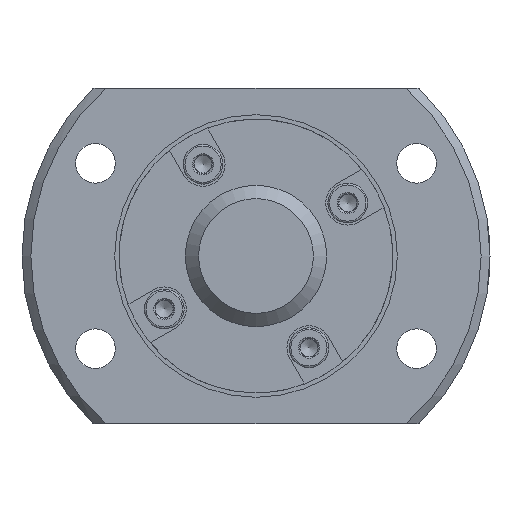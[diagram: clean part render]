
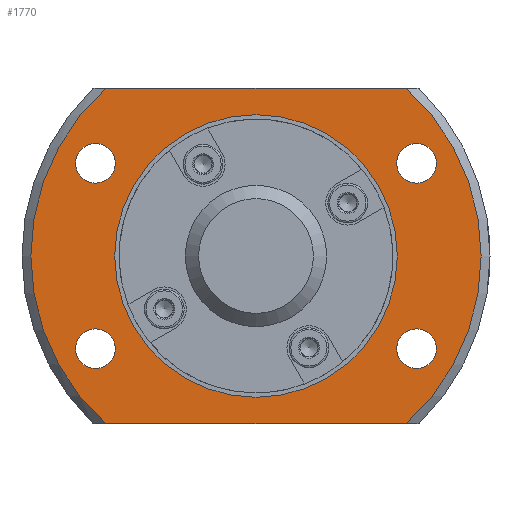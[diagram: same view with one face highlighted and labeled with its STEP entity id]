
A CAD part, left-side view. The second image highlights one B-rep face of the part: STEP entity #1770.
In plain terms, the highlighted planar face has unit normal (-1, 0, 0).
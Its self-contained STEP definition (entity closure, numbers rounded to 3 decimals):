
#81=LINE('',#2996,#193);
#82=LINE('',#2997,#194);
#193=VECTOR('',#2270,1000.);
#194=VECTOR('',#2271,1000.);
#454=ORIENTED_EDGE('',*,*,#908,.T.);
#455=ORIENTED_EDGE('',*,*,#909,.F.);
#456=ORIENTED_EDGE('',*,*,#888,.F.);
#457=ORIENTED_EDGE('',*,*,#910,.F.);
#458=ORIENTED_EDGE('',*,*,#906,.F.);
#459=ORIENTED_EDGE('',*,*,#911,.T.);
#460=ORIENTED_EDGE('',*,*,#912,.T.);
#461=ORIENTED_EDGE('',*,*,#913,.T.);
#462=ORIENTED_EDGE('',*,*,#914,.T.);
#888=EDGE_CURVE('',#1120,#1119,#1247,.T.);
#906=EDGE_CURVE('',#1134,#1135,#1260,.T.);
#908=EDGE_CURVE('',#1136,#1136,#1261,.T.);
#909=EDGE_CURVE('',#1119,#1134,#81,.T.);
#910=EDGE_CURVE('',#1135,#1120,#82,.T.);
#911=EDGE_CURVE('',#1137,#1137,#1262,.T.);
#912=EDGE_CURVE('',#1138,#1138,#1263,.T.);
#913=EDGE_CURVE('',#1139,#1139,#1264,.T.);
#914=EDGE_CURVE('',#1140,#1140,#1265,.T.);
#1119=VERTEX_POINT('',#2930);
#1120=VERTEX_POINT('',#2935);
#1134=VERTEX_POINT('',#2986);
#1135=VERTEX_POINT('',#2988);
#1136=VERTEX_POINT('',#2995);
#1137=VERTEX_POINT('',#2999);
#1138=VERTEX_POINT('',#3001);
#1139=VERTEX_POINT('',#3003);
#1140=VERTEX_POINT('',#3005);
#1247=CIRCLE('',#1935,25.5);
#1260=CIRCLE('',#1958,25.5);
#1261=CIRCLE('',#1960,16.);
#1262=CIRCLE('',#1961,2.25);
#1263=CIRCLE('',#1962,2.25);
#1264=CIRCLE('',#1963,2.25);
#1265=CIRCLE('',#1964,2.25);
#1360=EDGE_LOOP('',(#454));
#1361=EDGE_LOOP('',(#455,#456,#457,#458));
#1362=EDGE_LOOP('',(#459));
#1363=EDGE_LOOP('',(#460));
#1364=EDGE_LOOP('',(#461));
#1365=EDGE_LOOP('',(#462));
#1536=FACE_BOUND('',#1360,.T.);
#1537=FACE_BOUND('',#1361,.T.);
#1538=FACE_BOUND('',#1362,.T.);
#1539=FACE_BOUND('',#1363,.T.);
#1540=FACE_BOUND('',#1364,.T.);
#1541=FACE_BOUND('',#1365,.T.);
#1676=PLANE('',#1959);
#1770=ADVANCED_FACE('',(#1536,#1537,#1538,#1539,#1540,#1541),#1676,.T.);
#1935=AXIS2_PLACEMENT_3D('',#2936,#2216,#2217);
#1958=AXIS2_PLACEMENT_3D('',#2987,#2264,#2265);
#1959=AXIS2_PLACEMENT_3D('',#2993,#2266,#2267);
#1960=AXIS2_PLACEMENT_3D('',#2994,#2268,#2269);
#1961=AXIS2_PLACEMENT_3D('',#2998,#2272,#2273);
#1962=AXIS2_PLACEMENT_3D('',#3000,#2274,#2275);
#1963=AXIS2_PLACEMENT_3D('',#3002,#2276,#2277);
#1964=AXIS2_PLACEMENT_3D('',#3004,#2278,#2279);
#2216=DIRECTION('',(1.,0.,0.));
#2217=DIRECTION('',(0.,0.,-1.));
#2264=DIRECTION('',(1.,0.,0.));
#2265=DIRECTION('',(0.,0.,-1.));
#2266=DIRECTION('',(-1.,0.,0.));
#2267=DIRECTION('',(0.,0.,1.));
#2268=DIRECTION('',(1.,0.,0.));
#2269=DIRECTION('',(0.,0.,-1.));
#2270=DIRECTION('',(0.,1.,0.));
#2271=DIRECTION('',(0.,-1.,0.));
#2272=DIRECTION('',(1.,0.,0.));
#2273=DIRECTION('',(0.,0.,-1.));
#2274=DIRECTION('',(1.,0.,0.));
#2275=DIRECTION('',(0.,0.,-1.));
#2276=DIRECTION('',(1.,0.,0.));
#2277=DIRECTION('',(0.,0.,-1.));
#2278=DIRECTION('',(1.,0.,0.));
#2279=DIRECTION('',(0.,0.,-1.));
#2930=CARTESIAN_POINT('',(6.5,-17.007,-19.));
#2935=CARTESIAN_POINT('',(6.5,-17.007,19.));
#2936=CARTESIAN_POINT('',(6.5,0.,0.));
#2986=CARTESIAN_POINT('',(6.5,17.007,-19.));
#2987=CARTESIAN_POINT('',(6.5,0.,0.));
#2988=CARTESIAN_POINT('',(6.5,17.007,19.));
#2993=CARTESIAN_POINT('',(6.5,25.5,0.));
#2994=CARTESIAN_POINT('',(6.5,0.,0.));
#2995=CARTESIAN_POINT('',(6.5,0.,-16.));
#2996=CARTESIAN_POINT('',(6.5,25.5,-19.));
#2997=CARTESIAN_POINT('',(6.5,25.5,19.));
#2998=CARTESIAN_POINT('',(6.5,18.187,-10.5));
#2999=CARTESIAN_POINT('',(6.5,18.187,-12.75));
#3000=CARTESIAN_POINT('',(6.5,-18.187,10.5));
#3001=CARTESIAN_POINT('',(6.5,-18.187,8.25));
#3002=CARTESIAN_POINT('',(6.5,-18.187,-10.5));
#3003=CARTESIAN_POINT('',(6.5,-18.187,-12.75));
#3004=CARTESIAN_POINT('',(6.5,18.187,10.5));
#3005=CARTESIAN_POINT('',(6.5,18.187,8.25));
